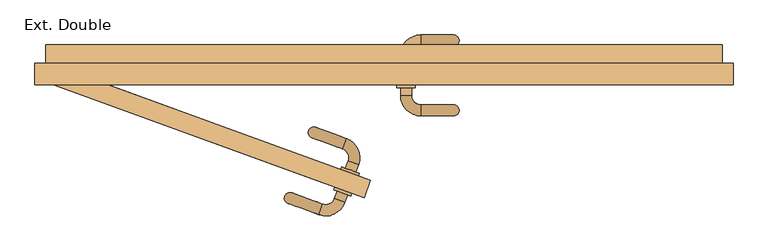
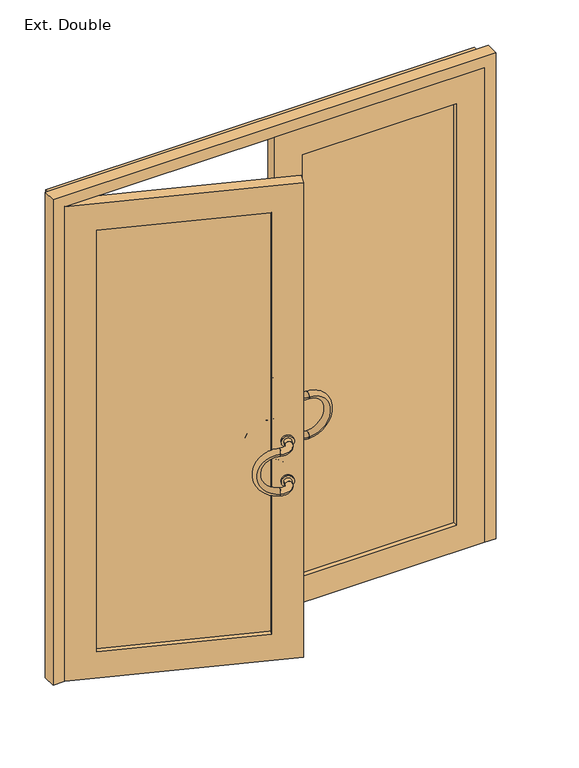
"""IFC4 building model written with IfcOpenShell, lengths in millimetres: door geometry, Ext. Double : Vitrée - 1.80 m x 2.15 m."""

from ifc_helpers import new_model, si_unit, point, frame, origin, place, context, project, spatial, polyline, circle_curve, ellipse_curve, trimmed, outline, extrude, faceted_brep, source, transform, mapped, element, save
from ifc_brep_helpers import plane_surface, cylinder_surface, revolved_surface, advanced_brep


def ext_double_d632f14f(model_context):
    return source(origin(), model_context, "Body", "SolidModel", [
        advanced_brep(
        [(35.0, -188.0, 990.0), (65.0, -188.0, 990.0), (90.0, -243.0, 990.0), (90.0, -213.0, 990.0)],
        [
            (0, 1, circle_curve(frame((50.0, -188.0, 990.0), z_axis=(0.0, 1.0, 0.0), x_axis=(1.0, 0.0, 0.0)), 15.0)),
            (1, 0, circle_curve(frame((50.0, -188.0, 990.0), z_axis=(0.0, 1.0, 0.0), x_axis=(1.0, 0.0, 0.0)), 15.0)),
            (2, 3, circle_curve(frame((90.0, -228.0, 990.0), z_axis=(1.0, 0.0, 0.0), x_axis=(0.0, 1.0, 0.0)), 15.0)),
            (3, 2, circle_curve(frame((90.0, -228.0, 990.0), z_axis=(1.0, 0.0, 0.0), x_axis=(0.0, 1.0, 0.0)), 15.0)),
            (3, 1, circle_curve(frame((90.0, -188.0, 990.0), z_axis=(0.0, 0.0, -1.0), x_axis=(-1.0, 0.0, 0.0)), 25.0)),
            (0, 2, circle_curve(frame((90.0, -188.0, 990.0), z_axis=(0.0, 0.0, 1.0), x_axis=(-1.0, 0.0, 0.0)), 55.0)),
        ],
        [
            plane_surface(frame((90.0, -188.0, 990.0), z_axis=(0.0, 1.0, 0.0), x_axis=(-1.0, 0.0, 0.0))),
            plane_surface(frame((90.0, -188.0, 990.0), z_axis=(1.0, 0.0, 0.0), x_axis=(0.0, -1.0, 0.0))),
            revolved_surface(trimmed(ellipse_curve(frame((50.0, -188.0, 990.0), z_axis=(0.0, 1.0, 0.0), x_axis=(1.0, 0.0, 0.0)), 15.0, 15.0), [point((35.0, -188.0, 990.0))], [point((65.0, -188.0, 990.0))], True, "CARTESIAN"), (90.0, -188.0, 990.0), (0.0, 0.0, 1.0)),
            revolved_surface(trimmed(ellipse_curve(frame((50.0, -188.0, 990.0), z_axis=(0.0, 1.0, 0.0), x_axis=(1.0, 0.0, 0.0)), 15.0, 15.0), [point((65.0, -188.0, 990.0))], [point((35.0, -188.0, 990.0))], True, "CARTESIAN"), (90.0, -188.0, 990.0), (0.0, 0.0, 1.0)),
        ],
        [
            (0, [[1, 2]]),
            (1, [[3, 4]]),
            (2, [[5, -1, 6, -4]]),
            (3, [[-6, -2, -5, -3]]),
        ],
    ),
        advanced_brep(
        [(35.0, -188.0, 810.0), (65.0, -188.0, 810.0), (90.0, -243.0, 810.0), (90.0, -213.0, 810.0)],
        [
            (0, 1, circle_curve(frame((50.0, -188.0, 810.0), z_axis=(0.0, 1.0, 0.0), x_axis=(1.0, 0.0, 0.0)), 15.0)),
            (1, 0, circle_curve(frame((50.0, -188.0, 810.0), z_axis=(0.0, 1.0, 0.0), x_axis=(1.0, 0.0, 0.0)), 15.0)),
            (2, 3, circle_curve(frame((90.0, -228.0, 810.0), z_axis=(1.0, 0.0, 0.0), x_axis=(0.0, 1.0, 0.0)), 15.0)),
            (3, 2, circle_curve(frame((90.0, -228.0, 810.0), z_axis=(1.0, 0.0, 0.0), x_axis=(0.0, 1.0, 0.0)), 15.0)),
            (3, 1, circle_curve(frame((90.0, -188.0, 810.0), z_axis=(0.0, 0.0, -1.0), x_axis=(-1.0, 0.0, 0.0)), 25.0)),
            (0, 2, circle_curve(frame((90.0, -188.0, 810.0), z_axis=(0.0, 0.0, 1.0), x_axis=(-1.0, 0.0, 0.0)), 55.0)),
        ],
        [
            plane_surface(frame((90.0, -188.0, 990.0), z_axis=(0.0, 1.0, 0.0), x_axis=(-1.0, 0.0, 0.0))),
            plane_surface(frame((90.0, -188.0, 990.0), z_axis=(1.0, 0.0, 0.0), x_axis=(0.0, -1.0, 0.0))),
            revolved_surface(trimmed(ellipse_curve(frame((50.0, -188.0, 810.0), z_axis=(0.0, 1.0, 0.0), x_axis=(1.0, 0.0, 0.0)), 15.0, 15.0), [point((35.0, -188.0, 810.0))], [point((65.0, -188.0, 810.0))], True, "CARTESIAN"), (90.0, -188.0, 990.0), (0.0, 0.0, 1.0)),
            revolved_surface(trimmed(ellipse_curve(frame((50.0, -188.0, 810.0), z_axis=(0.0, 1.0, 0.0), x_axis=(1.0, 0.0, 0.0)), 15.0, 15.0), [point((65.0, -188.0, 810.0))], [point((35.0, -188.0, 810.0))], True, "CARTESIAN"), (90.0, -188.0, 990.0), (0.0, 0.0, 1.0)),
        ],
        [
            (0, [[1, 2]]),
            (1, [[3, 4]]),
            (2, [[5, -1, 6, -4]]),
            (3, [[-6, -2, -5, -3]]),
        ],
    ),
        advanced_brep(
        [(90.0, -213.0, 990.0), (90.0, -243.0, 990.0), (90.0, -213.0, 810.0), (90.0, -243.0, 810.0)],
        [
            (0, 1, circle_curve(frame((90.0, -228.0, 990.0), z_axis=(-1.0, 0.0, 0.0), x_axis=(0.0, -1.0, 0.0)), 15.0)),
            (1, 0, circle_curve(frame((90.0, -228.0, 990.0), z_axis=(-1.0, 0.0, 0.0), x_axis=(0.0, -1.0, 0.0)), 15.0)),
            (2, 3, circle_curve(frame((90.0, -228.0, 810.0), z_axis=(-1.0, 0.0, 0.0), x_axis=(0.0, -1.0, 0.0)), 15.0)),
            (3, 2, circle_curve(frame((90.0, -228.0, 810.0), z_axis=(-1.0, 0.0, 0.0), x_axis=(0.0, -1.0, 0.0)), 15.0)),
            (3, 1, circle_curve(frame((90.0, -243.0, 900.0), z_axis=(0.0, -1.0, 0.0), x_axis=(0.0, 0.0, 1.0)), 90.0)),
            (0, 2, circle_curve(frame((90.0, -213.0, 900.0), z_axis=(0.0, 1.0, 0.0), x_axis=(0.0, 0.0, 1.0)), 90.0)),
        ],
        [
            plane_surface(frame((90.0, -243.0, 900.0), z_axis=(-1.0, 0.0, 0.0), x_axis=(0.0, 0.0, 1.0))),
            plane_surface(frame((90.0, -243.0, 900.0), z_axis=(-1.0, 0.0, 0.0), x_axis=(0.0, 0.0, -1.0))),
            revolved_surface(trimmed(ellipse_curve(frame((90.0, -228.0, 990.0), z_axis=(-1.0, 0.0, 0.0), x_axis=(0.0, -1.0, 0.0)), 15.0, 15.0), [point((90.0, -213.0, 990.0))], [point((90.0, -243.0, 990.0))], True, "CARTESIAN"), (90.0, -243.0, 900.0), (0.0, 1.0, 0.0)),
            revolved_surface(trimmed(ellipse_curve(frame((90.0, -228.0, 990.0), z_axis=(-1.0, 0.0, 0.0), x_axis=(0.0, -1.0, 0.0)), 15.0, 15.0), [point((90.0, -243.0, 990.0))], [point((90.0, -213.0, 990.0))], True, "CARTESIAN"), (90.0, -243.0, 900.0), (0.0, 1.0, 0.0)),
        ],
        [
            (0, [[1, 2]]),
            (1, [[3, 4]]),
            (2, [[5, -1, 6, -4]]),
            (3, [[-6, -2, -5, -3]]),
        ],
    ),
        advanced_brep(
        [(65.0, -78.0, 990.0), (35.0, -78.0, 990.0), (90.0, -53.0, 990.0), (90.0, -23.0, 990.0)],
        [
            (0, 1, circle_curve(frame((50.0, -78.0, 990.0), z_axis=(0.0, -1.0, 0.0), x_axis=(-1.0, 0.0, 0.0)), 15.0)),
            (1, 0, circle_curve(frame((50.0, -78.0, 990.0), z_axis=(0.0, -1.0, 0.0), x_axis=(-1.0, 0.0, 0.0)), 15.0)),
            (2, 3, circle_curve(frame((90.0, -38.0, 990.0), z_axis=(1.0, 0.0, 0.0), x_axis=(0.0, 1.0, 0.0)), 15.0)),
            (3, 2, circle_curve(frame((90.0, -38.0, 990.0), z_axis=(1.0, 0.0, 0.0), x_axis=(0.0, 1.0, 0.0)), 15.0)),
            (3, 1, circle_curve(frame((90.0, -78.0, 990.0), z_axis=(0.0, 0.0, 1.0), x_axis=(-1.0, 0.0, 0.0)), 55.0)),
            (0, 2, circle_curve(frame((90.0, -78.0, 990.0), z_axis=(0.0, 0.0, -1.0), x_axis=(-1.0, 0.0, 0.0)), 25.0)),
        ],
        [
            plane_surface(frame((90.0, -78.0, 990.0), z_axis=(0.0, -1.0, 0.0), x_axis=(-1.0, 0.0, 0.0))),
            plane_surface(frame((90.0, -78.0, 990.0), z_axis=(1.0, 0.0, 0.0), x_axis=(0.0, 1.0, 0.0))),
            revolved_surface(trimmed(ellipse_curve(frame((50.0, -78.0, 990.0), z_axis=(0.0, -1.0, 0.0), x_axis=(-1.0, 0.0, 0.0)), 15.0, 15.0), [point((65.0, -78.0, 990.0))], [point((35.0, -78.0, 990.0))], True, "CARTESIAN"), (90.0, -78.0, 990.0), (0.0, 0.0, -1.0)),
            revolved_surface(trimmed(ellipse_curve(frame((50.0, -78.0, 990.0), z_axis=(0.0, -1.0, 0.0), x_axis=(-1.0, 0.0, 0.0)), 15.0, 15.0), [point((35.0, -78.0, 990.0))], [point((65.0, -78.0, 990.0))], True, "CARTESIAN"), (90.0, -78.0, 990.0), (0.0, 0.0, -1.0)),
        ],
        [
            (0, [[1, 2]]),
            (1, [[3, 4]]),
            (2, [[5, -1, 6, -4]]),
            (3, [[-6, -2, -5, -3]]),
        ],
    ),
        advanced_brep(
        [(65.0, -78.0, 810.0), (35.0, -78.0, 810.0), (90.0, -53.0, 810.0), (90.0, -23.0, 810.0)],
        [
            (0, 1, circle_curve(frame((50.0, -78.0, 810.0), z_axis=(0.0, -1.0, 0.0), x_axis=(-1.0, 0.0, 0.0)), 15.0)),
            (1, 0, circle_curve(frame((50.0, -78.0, 810.0), z_axis=(0.0, -1.0, 0.0), x_axis=(-1.0, 0.0, 0.0)), 15.0)),
            (2, 3, circle_curve(frame((90.0, -38.0, 810.0), z_axis=(1.0, 0.0, 0.0), x_axis=(0.0, 1.0, 0.0)), 15.0)),
            (3, 2, circle_curve(frame((90.0, -38.0, 810.0), z_axis=(1.0, 0.0, 0.0), x_axis=(0.0, 1.0, 0.0)), 15.0)),
            (3, 1, circle_curve(frame((90.0, -78.0, 810.0), z_axis=(0.0, 0.0, 1.0), x_axis=(-1.0, 0.0, 0.0)), 55.0)),
            (0, 2, circle_curve(frame((90.0, -78.0, 810.0), z_axis=(0.0, 0.0, -1.0), x_axis=(-1.0, 0.0, 0.0)), 25.0)),
        ],
        [
            plane_surface(frame((90.0, -78.0, 990.0), z_axis=(0.0, -1.0, 0.0), x_axis=(-1.0, 0.0, 0.0))),
            plane_surface(frame((90.0, -78.0, 990.0), z_axis=(1.0, 0.0, 0.0), x_axis=(0.0, 1.0, 0.0))),
            revolved_surface(trimmed(ellipse_curve(frame((50.0, -78.0, 810.0), z_axis=(0.0, -1.0, 0.0), x_axis=(-1.0, 0.0, 0.0)), 15.0, 15.0), [point((65.0, -78.0, 810.0))], [point((35.0, -78.0, 810.0))], True, "CARTESIAN"), (90.0, -78.0, 990.0), (0.0, 0.0, -1.0)),
            revolved_surface(trimmed(ellipse_curve(frame((50.0, -78.0, 810.0), z_axis=(0.0, -1.0, 0.0), x_axis=(-1.0, 0.0, 0.0)), 15.0, 15.0), [point((35.0, -78.0, 810.0))], [point((65.0, -78.0, 810.0))], True, "CARTESIAN"), (90.0, -78.0, 990.0), (0.0, 0.0, -1.0)),
        ],
        [
            (0, [[1, 2]]),
            (1, [[3, 4]]),
            (2, [[5, -1, 6, -4]]),
            (3, [[-6, -2, -5, -3]]),
        ],
    ),
        advanced_brep(
        [(90.0, -23.0, 990.0), (90.0, -53.0, 990.0), (90.0, -23.0, 810.0), (90.0, -53.0, 810.0)],
        [
            (0, 1, circle_curve(frame((90.0, -38.0, 990.0), z_axis=(-1.0, 0.0, 0.0), x_axis=(0.0, -1.0, 0.0)), 15.0)),
            (1, 0, circle_curve(frame((90.0, -38.0, 990.0), z_axis=(-1.0, 0.0, 0.0), x_axis=(0.0, -1.0, 0.0)), 15.0)),
            (2, 3, circle_curve(frame((90.0, -38.0, 810.0), z_axis=(-1.0, 0.0, 0.0), x_axis=(0.0, -1.0, 0.0)), 15.0)),
            (3, 2, circle_curve(frame((90.0, -38.0, 810.0), z_axis=(-1.0, 0.0, 0.0), x_axis=(0.0, -1.0, 0.0)), 15.0)),
            (3, 1, circle_curve(frame((90.0, -53.0, 900.0), z_axis=(0.0, -1.0, 0.0), x_axis=(0.0, 0.0, 1.0)), 90.0)),
            (0, 2, circle_curve(frame((90.0, -23.0, 900.0), z_axis=(0.0, 1.0, 0.0), x_axis=(0.0, 0.0, 1.0)), 90.0)),
        ],
        [
            plane_surface(frame((90.0, -38.0, 900.0), z_axis=(-1.0, 0.0, 0.0), x_axis=(0.0, 0.0, 1.0))),
            plane_surface(frame((90.0, -38.0, 900.0), z_axis=(-1.0, 0.0, 0.0), x_axis=(0.0, 0.0, -1.0))),
            revolved_surface(trimmed(ellipse_curve(frame((90.0, -38.0, 990.0), z_axis=(-1.0, 0.0, 0.0), x_axis=(0.0, -1.0, 0.0)), 15.0, 15.0), [point((90.0, -23.0, 990.0))], [point((90.0, -53.0, 990.0))], True, "CARTESIAN"), (90.0, -38.0, 900.0), (0.0, 1.0, 0.0)),
            revolved_surface(trimmed(ellipse_curve(frame((90.0, -38.0, 990.0), z_axis=(-1.0, 0.0, 0.0), x_axis=(0.0, -1.0, 0.0)), 15.0, 15.0), [point((90.0, -53.0, 990.0))], [point((90.0, -23.0, 990.0))], True, "CARTESIAN"), (90.0, -38.0, 900.0), (0.0, 1.0, 0.0)),
        ],
        [
            (0, [[1, 2]]),
            (1, [[3, 4]]),
            (2, [[5, -1, 6, -4]]),
            (3, [[-6, -2, -5, -3]]),
        ],
    ),
        advanced_brep(
        [(25.0, -166.0, 990.0), (75.0, -166.0, 990.0), (65.0, -166.0, 990.0), (35.0, -166.0, 990.0), (25.0, -158.0, 990.0), (75.0, -158.0, 990.0), (35.0, -188.0, 990.0), (65.0, -188.0, 990.0)],
        [
            (0, 1, circle_curve(frame((50.0, -166.0, 990.0), z_axis=(0.0, -1.0, 0.0), x_axis=(1.0, 0.0, 0.0)), 25.0)),
            (1, 0, circle_curve(frame((50.0, -166.0, 990.0), z_axis=(0.0, -1.0, 0.0), x_axis=(1.0, 0.0, 0.0)), 25.0)),
            (2, 3, circle_curve(frame((50.0, -166.0, 990.0), z_axis=(0.0, 1.0, 0.0), x_axis=(1.0, 0.0, 0.0)), 15.0)),
            (3, 2, circle_curve(frame((50.0, -166.0, 990.0), z_axis=(0.0, 1.0, 0.0), x_axis=(1.0, 0.0, 0.0)), 15.0)),
            (4, 5, circle_curve(frame((50.0, -158.0, 990.0), z_axis=(0.0, 1.0, 0.0), x_axis=(1.0, 0.0, 0.0)), 25.0)),
            (5, 4, circle_curve(frame((50.0, -158.0, 990.0), z_axis=(0.0, 1.0, 0.0), x_axis=(1.0, 0.0, 0.0)), 25.0)),
            (0, 4),
            (5, 1),
            (6, 7, circle_curve(frame((50.0, -188.0, 990.0), z_axis=(0.0, -1.0, 0.0), x_axis=(1.0, 0.0, 0.0)), 15.0)),
            (7, 6, circle_curve(frame((50.0, -188.0, 990.0), z_axis=(0.0, -1.0, 0.0), x_axis=(1.0, 0.0, 0.0)), 15.0)),
            (6, 3),
            (2, 7),
        ],
        [
            plane_surface(frame((75.0, -166.0, 990.0), z_axis=(0.0, -1.0, 0.0), x_axis=(0.0, 0.0, 1.0))),
            plane_surface(frame((75.0, -158.0, 990.0), z_axis=(0.0, 1.0, 0.0), x_axis=(0.0, 0.0, -1.0))),
            cylinder_surface(frame((50.0, -158.0, 990.0), z_axis=(0.0, -1.0, 0.0), x_axis=(1.0, 0.0, 0.0)), 25.0),
            plane_surface(frame((65.0, -188.0, 990.0), z_axis=(0.0, -1.0, 0.0), x_axis=(0.0, 0.0, 1.0))),
            cylinder_surface(frame((50.0, -158.0, 990.0), z_axis=(0.0, -1.0, 0.0), x_axis=(1.0, 0.0, 0.0)), 15.0),
        ],
        [
            (0, [[1, 2], [3, 4]]),
            (1, [[5, 6]]),
            (2, [[-1, 7, -6, 8]]),
            (2, [[-2, -8, -5, -7]]),
            (3, [[9, 10]]),
            (4, [[-9, 11, -3, 12]]),
            (4, [[-10, -12, -4, -11]]),
        ],
    ),
        advanced_brep(
        [(25.0, -166.0, 810.0), (75.0, -166.0, 810.0), (65.0, -166.0, 810.0), (35.0, -166.0, 810.0), (25.0, -158.0, 810.0), (75.0, -158.0, 810.0), (35.0, -188.0, 810.0), (65.0, -188.0, 810.0)],
        [
            (0, 1, circle_curve(frame((50.0, -166.0, 810.0), z_axis=(0.0, -1.0, 0.0), x_axis=(1.0, 0.0, 0.0)), 25.0)),
            (1, 0, circle_curve(frame((50.0, -166.0, 810.0), z_axis=(0.0, -1.0, 0.0), x_axis=(1.0, 0.0, 0.0)), 25.0)),
            (2, 3, circle_curve(frame((50.0, -166.0, 810.0), z_axis=(0.0, 1.0, 0.0), x_axis=(1.0, 0.0, 0.0)), 15.0)),
            (3, 2, circle_curve(frame((50.0, -166.0, 810.0), z_axis=(0.0, 1.0, 0.0), x_axis=(1.0, 0.0, 0.0)), 15.0)),
            (4, 5, circle_curve(frame((50.0, -158.0, 810.0), z_axis=(0.0, 1.0, 0.0), x_axis=(1.0, 0.0, 0.0)), 25.0)),
            (5, 4, circle_curve(frame((50.0, -158.0, 810.0), z_axis=(0.0, 1.0, 0.0), x_axis=(1.0, 0.0, 0.0)), 25.0)),
            (0, 4),
            (5, 1),
            (6, 7, circle_curve(frame((50.0, -188.0, 810.0), z_axis=(0.0, -1.0, 0.0), x_axis=(1.0, 0.0, 0.0)), 15.0)),
            (7, 6, circle_curve(frame((50.0, -188.0, 810.0), z_axis=(0.0, -1.0, 0.0), x_axis=(1.0, 0.0, 0.0)), 15.0)),
            (6, 3),
            (2, 7),
        ],
        [
            plane_surface(frame((75.0, -166.0, 990.0), z_axis=(0.0, -1.0, 0.0), x_axis=(0.0, 0.0, 1.0))),
            plane_surface(frame((75.0, -158.0, 990.0), z_axis=(0.0, 1.0, 0.0), x_axis=(0.0, 0.0, -1.0))),
            cylinder_surface(frame((50.0, -158.0, 810.0), z_axis=(0.0, -1.0, 0.0), x_axis=(1.0, 0.0, 0.0)), 25.0),
            plane_surface(frame((65.0, -188.0, 990.0), z_axis=(0.0, -1.0, 0.0), x_axis=(0.0, 0.0, 1.0))),
            cylinder_surface(frame((50.0, -158.0, 810.0), z_axis=(0.0, -1.0, 0.0), x_axis=(1.0, 0.0, 0.0)), 15.0),
        ],
        [
            (0, [[1, 2], [3, 4]]),
            (1, [[5, 6]]),
            (2, [[-1, 7, -6, 8]]),
            (2, [[-2, -8, -5, -7]]),
            (3, [[9, 10]]),
            (4, [[-9, 11, -3, 12]]),
            (4, [[-10, -12, -4, -11]]),
        ],
    ),
        advanced_brep(
        [(25.0, -108.0, 810.0), (75.0, -108.0, 810.0), (25.0, -100.0, 810.0), (75.0, -100.0, 810.0), (35.0, -100.0, 810.0), (65.0, -100.0, 810.0), (35.0, -78.0, 810.0), (65.0, -78.0, 810.0)],
        [
            (0, 1, circle_curve(frame((50.0, -108.0, 810.0), z_axis=(0.0, -1.0, 0.0), x_axis=(1.0, 0.0, 0.0)), 25.0)),
            (1, 0, circle_curve(frame((50.0, -108.0, 810.0), z_axis=(0.0, -1.0, 0.0), x_axis=(1.0, 0.0, 0.0)), 25.0)),
            (2, 3, circle_curve(frame((50.0, -100.0, 810.0), z_axis=(0.0, 1.0, 0.0), x_axis=(1.0, 0.0, 0.0)), 25.0)),
            (3, 2, circle_curve(frame((50.0, -100.0, 810.0), z_axis=(0.0, 1.0, 0.0), x_axis=(1.0, 0.0, 0.0)), 25.0)),
            (4, 5, circle_curve(frame((50.0, -100.0, 810.0), z_axis=(0.0, -1.0, 0.0), x_axis=(1.0, 0.0, 0.0)), 15.0)),
            (5, 4, circle_curve(frame((50.0, -100.0, 810.0), z_axis=(0.0, -1.0, 0.0), x_axis=(1.0, 0.0, 0.0)), 15.0)),
            (0, 2),
            (3, 1),
            (6, 7, circle_curve(frame((50.0, -78.0, 810.0), z_axis=(0.0, 1.0, 0.0), x_axis=(1.0, 0.0, 0.0)), 15.0)),
            (7, 6, circle_curve(frame((50.0, -78.0, 810.0), z_axis=(0.0, 1.0, 0.0), x_axis=(1.0, 0.0, 0.0)), 15.0)),
            (7, 5),
            (4, 6),
        ],
        [
            plane_surface(frame((75.0, -108.0, 990.0), z_axis=(0.0, -1.0, 0.0), x_axis=(0.0, 0.0, 1.0))),
            plane_surface(frame((75.0, -100.0, 990.0), z_axis=(0.0, 1.0, 0.0), x_axis=(0.0, 0.0, -1.0))),
            cylinder_surface(frame((50.0, -108.0, 810.0), z_axis=(0.0, -1.0, 0.0), x_axis=(1.0, 0.0, 0.0)), 25.0),
            plane_surface(frame((65.0, -78.0, 990.0), z_axis=(0.0, 1.0, 0.0), x_axis=(0.0, 0.0, -1.0))),
            cylinder_surface(frame((50.0, -108.0, 810.0), z_axis=(0.0, -1.0, 0.0), x_axis=(1.0, 0.0, 0.0)), 15.0),
        ],
        [
            (0, [[1, 2]]),
            (1, [[3, 4], [5, 6]]),
            (2, [[-1, 7, -4, 8]]),
            (2, [[-2, -8, -3, -7]]),
            (3, [[9, 10]]),
            (4, [[-10, 11, -5, 12]]),
            (4, [[-9, -12, -6, -11]]),
        ],
    ),
        advanced_brep(
        [(25.0, -108.0, 990.0), (75.0, -108.0, 990.0), (25.0, -100.0, 990.0), (75.0, -100.0, 990.0), (35.0, -100.0, 990.0), (65.0, -100.0, 990.0), (35.0, -78.0, 990.0), (65.0, -78.0, 990.0)],
        [
            (0, 1, circle_curve(frame((50.0, -108.0, 990.0), z_axis=(0.0, -1.0, 0.0), x_axis=(1.0, 0.0, 0.0)), 25.0)),
            (1, 0, circle_curve(frame((50.0, -108.0, 990.0), z_axis=(0.0, -1.0, 0.0), x_axis=(1.0, 0.0, 0.0)), 25.0)),
            (2, 3, circle_curve(frame((50.0, -100.0, 990.0), z_axis=(0.0, 1.0, 0.0), x_axis=(1.0, 0.0, 0.0)), 25.0)),
            (3, 2, circle_curve(frame((50.0, -100.0, 990.0), z_axis=(0.0, 1.0, 0.0), x_axis=(1.0, 0.0, 0.0)), 25.0)),
            (4, 5, circle_curve(frame((50.0, -100.0, 990.0), z_axis=(0.0, -1.0, 0.0), x_axis=(1.0, 0.0, 0.0)), 15.0)),
            (5, 4, circle_curve(frame((50.0, -100.0, 990.0), z_axis=(0.0, -1.0, 0.0), x_axis=(1.0, 0.0, 0.0)), 15.0)),
            (0, 2),
            (3, 1),
            (6, 7, circle_curve(frame((50.0, -78.0, 990.0), z_axis=(0.0, 1.0, 0.0), x_axis=(1.0, 0.0, 0.0)), 15.0)),
            (7, 6, circle_curve(frame((50.0, -78.0, 990.0), z_axis=(0.0, 1.0, 0.0), x_axis=(1.0, 0.0, 0.0)), 15.0)),
            (7, 5),
            (4, 6),
        ],
        [
            plane_surface(frame((75.0, -108.0, 990.0), z_axis=(0.0, -1.0, 0.0), x_axis=(0.0, 0.0, 1.0))),
            plane_surface(frame((75.0, -100.0, 990.0), z_axis=(0.0, 1.0, 0.0), x_axis=(0.0, 0.0, -1.0))),
            cylinder_surface(frame((50.0, -100.0, 990.0), z_axis=(0.0, -1.0, 0.0), x_axis=(1.0, 0.0, 0.0)), 25.0),
            plane_surface(frame((65.0, -78.0, 990.0), z_axis=(0.0, 1.0, 0.0), x_axis=(0.0, 0.0, -1.0))),
            cylinder_surface(frame((50.0, -78.0, 990.0), z_axis=(0.0, -1.0, 0.0), x_axis=(1.0, 0.0, 0.0)), 15.0),
        ],
        [
            (0, [[1, 2]]),
            (1, [[3, 4], [5, 6]]),
            (2, [[-1, 7, -4, 8]]),
            (2, [[-2, -8, -3, -7]]),
            (3, [[9, 10]]),
            (4, [[-10, 11, -5, 12]]),
            (4, [[-9, -12, -6, -11]]),
        ],
    ),
        extrude(outline(polyline([(110.0, -128.0), (770.0, -128.0), (770.0, -138.0), (110.0, -138.0), (110.0, -128.0)])), frame((0.0, 0.0, 120.0), z_axis=(0.0, 0.0, 1.0), x_axis=(1.0, 0.0, 0.0)), (0.0, 0.0, 1.0), 1910.0),
        extrude(outline(polyline([(2150.0, -10.0), (0.0, -10.0), (0.0, 890.0), (2150.0, 890.0), (2150.0, -10.0)]), holes=[polyline([(2030.0, 770.0), (120.0, 770.0), (120.0, 110.0), (2030.0, 110.0), (2030.0, 770.0)])]), frame((0.0, -158.0, 0.0), z_axis=(0.0, 1.0, 0.0), x_axis=(0.0, 0.0, 1.0)), (0.0, 0.0, 1.0), 50.0),
        advanced_brep(
        [(-116.8234135, -478.6180012, 990.0), (-145.0141922, -468.3573969, 990.0), (-187.3176156, -511.4899874, 990.0), (-177.0570113, -483.2992088, 990.0)],
        [
            (0, 1, circle_curve(frame((-130.9188028, -473.487699, 990.0), z_axis=(0.34202014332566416, 0.9396926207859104, 0.0), x_axis=(-0.9396926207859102, 0.3420201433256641, 0.0)), 15.0)),
            (1, 0, circle_curve(frame((-130.9188028, -473.487699, 990.0), z_axis=(0.34202014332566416, 0.9396926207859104, 0.0), x_axis=(-0.9396926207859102, 0.3420201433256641, 0.0)), 15.0)),
            (2, 3, circle_curve(frame((-182.1873134, -497.3945981, 990.0), z_axis=(-0.9396926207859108, 0.3420201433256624, 0.0), x_axis=(0.34202014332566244, 0.939692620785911, 0.0)), 15.0)),
            (3, 2, circle_curve(frame((-182.1873134, -497.3945981, 990.0), z_axis=(-0.9396926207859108, 0.3420201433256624, 0.0), x_axis=(0.34202014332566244, 0.939692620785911, 0.0)), 15.0)),
            (2, 0, circle_curve(frame((-168.5065077, -459.8068933, 990.0), z_axis=(0.0, 0.0, 1.0), x_axis=(0.939692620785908, -0.34202014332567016, 0.0)), 55.0)),
            (1, 3, circle_curve(frame((-168.5065077, -459.8068933, 990.0), z_axis=(0.0, 0.0, -1.0), x_axis=(0.939692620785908, -0.34202014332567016, 0.0)), 25.0)),
        ],
        [
            plane_surface(frame((-168.5065077, -459.8068933, 990.0), z_axis=(0.34202014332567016, 0.939692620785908, 0.0), x_axis=(0.939692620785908, -0.34202014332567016, 0.0))),
            plane_surface(frame((-168.5065077, -459.8068933, 990.0), z_axis=(-0.9396926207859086, 0.3420201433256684, 0.0), x_axis=(-0.3420201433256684, -0.9396926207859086, 0.0))),
            revolved_surface(trimmed(ellipse_curve(frame((-130.9188028, -473.487699, 990.0), z_axis=(-0.34202014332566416, -0.9396926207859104, 0.0), x_axis=(-0.9396926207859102, 0.3420201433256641, 0.0)), 15.0, 15.0), [point((-116.8234135, -478.6180012, 990.0))], [point((-145.0141922, -468.3573969, 990.0))], True, "CARTESIAN"), (-168.5065077, -459.8068933, 990.0), (0.0, 0.0, 1.0000000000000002)),
            revolved_surface(trimmed(ellipse_curve(frame((-130.9188028, -473.487699, 990.0), z_axis=(-0.34202014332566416, -0.9396926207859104, 0.0), x_axis=(-0.9396926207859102, 0.3420201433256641, 0.0)), 15.0, 15.0), [point((-145.0141922, -468.3573969, 990.0))], [point((-116.8234135, -478.6180012, 990.0))], True, "CARTESIAN"), (-168.5065077, -459.8068933, 990.0), (0.0, 0.0, 1.0000000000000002)),
        ],
        [
            (0, [[1, 2]]),
            (1, [[3, 4]]),
            (2, [[-3, 5, -2, 6]]),
            (3, [[-4, -6, -1, -5]]),
        ],
    ),
        advanced_brep(
        [(-116.8234135, -478.6180012, 810.0), (-145.0141922, -468.3573969, 810.0), (-187.3176156, -511.4899874, 810.0), (-177.0570113, -483.2992088, 810.0)],
        [
            (0, 1, circle_curve(frame((-130.9188028, -473.487699, 810.0), z_axis=(0.34202014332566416, 0.9396926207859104, 0.0), x_axis=(-0.9396926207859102, 0.3420201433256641, 0.0)), 15.0)),
            (1, 0, circle_curve(frame((-130.9188028, -473.487699, 810.0), z_axis=(0.34202014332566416, 0.9396926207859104, 0.0), x_axis=(-0.9396926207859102, 0.3420201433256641, 0.0)), 15.0)),
            (2, 3, circle_curve(frame((-182.1873134, -497.3945981, 810.0), z_axis=(-0.9396926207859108, 0.3420201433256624, 0.0), x_axis=(0.34202014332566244, 0.939692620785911, 0.0)), 15.0)),
            (3, 2, circle_curve(frame((-182.1873134, -497.3945981, 810.0), z_axis=(-0.9396926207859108, 0.3420201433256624, 0.0), x_axis=(0.34202014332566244, 0.939692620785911, 0.0)), 15.0)),
            (2, 0, circle_curve(frame((-168.5065077, -459.8068933, 810.0), z_axis=(0.0, 0.0, 1.0), x_axis=(0.939692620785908, -0.34202014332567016, 0.0)), 55.0)),
            (1, 3, circle_curve(frame((-168.5065077, -459.8068933, 810.0), z_axis=(0.0, 0.0, -1.0), x_axis=(0.939692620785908, -0.34202014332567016, 0.0)), 25.0)),
        ],
        [
            plane_surface(frame((-168.5065077, -459.8068933, 990.0), z_axis=(0.34202014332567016, 0.939692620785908, 0.0), x_axis=(0.939692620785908, -0.34202014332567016, 0.0))),
            plane_surface(frame((-168.5065077, -459.8068933, 990.0), z_axis=(-0.9396926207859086, 0.3420201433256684, 0.0), x_axis=(-0.3420201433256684, -0.9396926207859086, 0.0))),
            revolved_surface(trimmed(ellipse_curve(frame((-130.9188028, -473.487699, 810.0), z_axis=(-0.34202014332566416, -0.9396926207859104, 0.0), x_axis=(-0.9396926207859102, 0.3420201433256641, 0.0)), 15.0, 15.0), [point((-116.8234135, -478.6180012, 810.0))], [point((-145.0141922, -468.3573969, 810.0))], True, "CARTESIAN"), (-168.5065077, -459.8068933, 990.0), (0.0, 0.0, 1.0000000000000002)),
            revolved_surface(trimmed(ellipse_curve(frame((-130.9188028, -473.487699, 810.0), z_axis=(-0.34202014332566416, -0.9396926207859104, 0.0), x_axis=(-0.9396926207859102, 0.3420201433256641, 0.0)), 15.0, 15.0), [point((-145.0141922, -468.3573969, 810.0))], [point((-116.8234135, -478.6180012, 810.0))], True, "CARTESIAN"), (-168.5065077, -459.8068933, 990.0), (0.0, 0.0, 1.0000000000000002)),
        ],
        [
            (0, [[1, 2]]),
            (1, [[3, 4]]),
            (2, [[-3, 5, -2, 6]]),
            (3, [[-4, -6, -1, -5]]),
        ],
    ),
        advanced_brep(
        [(-177.0570113, -483.2992088, 990.0), (-187.3176156, -511.4899874, 990.0), (-177.0570113, -483.2992088, 810.0), (-187.3176156, -511.4899874, 810.0)],
        [
            (0, 1, circle_curve(frame((-182.1873134, -497.3945981, 990.0), z_axis=(0.9396926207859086, -0.34202014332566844, 0.0), x_axis=(-0.3420201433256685, -0.9396926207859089, 0.0)), 15.0)),
            (1, 0, circle_curve(frame((-182.1873134, -497.3945981, 990.0), z_axis=(0.9396926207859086, -0.34202014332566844, 0.0), x_axis=(-0.3420201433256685, -0.9396926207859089, 0.0)), 15.0)),
            (2, 3, circle_curve(frame((-182.1873134, -497.3945981, 810.0), z_axis=(0.9396926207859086, -0.34202014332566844, 0.0), x_axis=(-0.3420201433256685, -0.9396926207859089, 0.0)), 15.0)),
            (3, 2, circle_curve(frame((-182.1873134, -497.3945981, 810.0), z_axis=(0.9396926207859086, -0.34202014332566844, 0.0), x_axis=(-0.3420201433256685, -0.9396926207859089, 0.0)), 15.0)),
            (2, 0, circle_curve(frame((-177.0570113, -483.2992088, 900.0), z_axis=(0.34202014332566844, 0.9396926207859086, 0.0), x_axis=(0.0, 0.0, 1.0000000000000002)), 90.0)),
            (1, 3, circle_curve(frame((-187.3176156, -511.4899874, 900.0), z_axis=(-0.34202014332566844, -0.9396926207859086, 0.0), x_axis=(0.0, 0.0, 1.0000000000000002)), 90.0)),
        ],
        [
            plane_surface(frame((-187.3176156, -511.4899874, 900.0), z_axis=(0.9396926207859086, -0.34202014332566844, 0.0), x_axis=(0.0, 0.0, 1.0))),
            plane_surface(frame((-187.3176156, -511.4899874, 900.0), z_axis=(0.9396926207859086, -0.34202014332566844, 0.0), x_axis=(0.0, 0.0, -1.0))),
            revolved_surface(trimmed(ellipse_curve(frame((-182.1873134, -497.3945981, 990.0), z_axis=(-0.9396926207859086, 0.34202014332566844, 0.0), x_axis=(-0.3420201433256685, -0.9396926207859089, 0.0)), 15.0, 15.0), [point((-177.0570113, -483.2992088, 990.0))], [point((-187.3176156, -511.4899874, 990.0))], True, "CARTESIAN"), (-187.3176156, -511.4899874, 900.0), (0.3420201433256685, 0.9396926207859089, 0.0)),
            revolved_surface(trimmed(ellipse_curve(frame((-182.1873134, -497.3945981, 990.0), z_axis=(-0.9396926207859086, 0.34202014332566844, 0.0), x_axis=(-0.3420201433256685, -0.9396926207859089, 0.0)), 15.0, 15.0), [point((-187.3176156, -511.4899874, 990.0))], [point((-177.0570113, -483.2992088, 990.0))], True, "CARTESIAN"), (-187.3176156, -511.4899874, 900.0), (0.3420201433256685, 0.9396926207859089, 0.0)),
        ],
        [
            (0, [[1, 2]]),
            (1, [[3, 4]]),
            (2, [[-3, 5, -2, 6]]),
            (3, [[-4, -6, -1, -5]]),
        ],
    ),
        advanced_brep(
        [(-107.3919764, -364.9912086, 990.0), (-79.2011978, -375.2518129, 990.0), (-122.3337883, -332.9483895, 990.0), (-112.073184, -304.7576109, 990.0)],
        [
            (0, 1, circle_curve(frame((-93.2965871, -370.1215107, 990.0), z_axis=(-0.34202014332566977, -0.9396926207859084, 0.0), x_axis=(0.9396926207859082, -0.3420201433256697, 0.0)), 15.0)),
            (1, 0, circle_curve(frame((-93.2965871, -370.1215107, 990.0), z_axis=(-0.34202014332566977, -0.9396926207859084, 0.0), x_axis=(0.9396926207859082, -0.3420201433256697, 0.0)), 15.0)),
            (2, 3, circle_curve(frame((-117.2034862, -318.8530002, 990.0), z_axis=(-0.9396926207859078, 0.34202014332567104, 0.0), x_axis=(0.3420201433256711, 0.939692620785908, 0.0)), 15.0)),
            (3, 2, circle_curve(frame((-117.2034862, -318.8530002, 990.0), z_axis=(-0.9396926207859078, 0.34202014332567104, 0.0), x_axis=(0.3420201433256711, 0.939692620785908, 0.0)), 15.0)),
            (2, 0, circle_curve(frame((-130.8842919, -356.440705, 990.0), z_axis=(0.0, 0.0, -1.0), x_axis=(0.9396926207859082, -0.34202014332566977, 0.0)), 25.0)),
            (1, 3, circle_curve(frame((-130.8842919, -356.440705, 990.0), z_axis=(0.0, 0.0, 1.0), x_axis=(0.9396926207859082, -0.34202014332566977, 0.0)), 55.0)),
        ],
        [
            plane_surface(frame((-130.8842919, -356.440705, 990.0), z_axis=(-0.34202014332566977, -0.9396926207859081, 0.0), x_axis=(0.9396926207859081, -0.34202014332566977, 0.0))),
            plane_surface(frame((-130.8842919, -356.440705, 990.0), z_axis=(-0.9396926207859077, 0.34202014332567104, 0.0), x_axis=(0.34202014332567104, 0.9396926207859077, 0.0))),
            revolved_surface(trimmed(ellipse_curve(frame((-93.2965871, -370.1215107, 990.0), z_axis=(0.34202014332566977, 0.9396926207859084, 0.0), x_axis=(0.9396926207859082, -0.3420201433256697, 0.0)), 15.0, 15.0), [point((-107.3919764, -364.9912086, 990.0))], [point((-79.2011978, -375.2518129, 990.0))], True, "CARTESIAN"), (-130.8842919, -356.440705, 990.0), (0.0, 0.0, -1.0000000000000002)),
            revolved_surface(trimmed(ellipse_curve(frame((-93.2965871, -370.1215107, 990.0), z_axis=(0.34202014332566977, 0.9396926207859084, 0.0), x_axis=(0.9396926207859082, -0.3420201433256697, 0.0)), 15.0, 15.0), [point((-79.2011978, -375.2518129, 990.0))], [point((-107.3919764, -364.9912086, 990.0))], True, "CARTESIAN"), (-130.8842919, -356.440705, 990.0), (0.0, 0.0, -1.0000000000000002)),
        ],
        [
            (0, [[1, 2]]),
            (1, [[3, 4]]),
            (2, [[-3, 5, -2, 6]]),
            (3, [[-4, -6, -1, -5]]),
        ],
    ),
        advanced_brep(
        [(-107.3919764, -364.9912086, 810.0), (-79.2011978, -375.2518129, 810.0), (-122.3337883, -332.9483895, 810.0), (-112.073184, -304.7576109, 810.0)],
        [
            (0, 1, circle_curve(frame((-93.2965871, -370.1215107, 810.0), z_axis=(-0.34202014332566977, -0.9396926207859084, 0.0), x_axis=(0.9396926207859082, -0.3420201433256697, 0.0)), 15.0)),
            (1, 0, circle_curve(frame((-93.2965871, -370.1215107, 810.0), z_axis=(-0.34202014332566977, -0.9396926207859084, 0.0), x_axis=(0.9396926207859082, -0.3420201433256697, 0.0)), 15.0)),
            (2, 3, circle_curve(frame((-117.2034862, -318.8530002, 810.0), z_axis=(-0.9396926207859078, 0.34202014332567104, 0.0), x_axis=(0.3420201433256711, 0.939692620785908, 0.0)), 15.0)),
            (3, 2, circle_curve(frame((-117.2034862, -318.8530002, 810.0), z_axis=(-0.9396926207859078, 0.34202014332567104, 0.0), x_axis=(0.3420201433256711, 0.939692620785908, 0.0)), 15.0)),
            (2, 0, circle_curve(frame((-130.8842919, -356.440705, 810.0), z_axis=(0.0, 0.0, -1.0), x_axis=(0.9396926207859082, -0.34202014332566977, 0.0)), 25.0)),
            (1, 3, circle_curve(frame((-130.8842919, -356.440705, 810.0), z_axis=(0.0, 0.0, 1.0), x_axis=(0.9396926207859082, -0.34202014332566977, 0.0)), 55.0)),
        ],
        [
            plane_surface(frame((-130.8842919, -356.440705, 990.0), z_axis=(-0.34202014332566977, -0.9396926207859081, 0.0), x_axis=(0.9396926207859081, -0.34202014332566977, 0.0))),
            plane_surface(frame((-130.8842919, -356.440705, 990.0), z_axis=(-0.9396926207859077, 0.34202014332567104, 0.0), x_axis=(0.34202014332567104, 0.9396926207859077, 0.0))),
            revolved_surface(trimmed(ellipse_curve(frame((-93.2965871, -370.1215107, 810.0), z_axis=(0.34202014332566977, 0.9396926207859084, 0.0), x_axis=(0.9396926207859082, -0.3420201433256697, 0.0)), 15.0, 15.0), [point((-107.3919764, -364.9912086, 810.0))], [point((-79.2011978, -375.2518129, 810.0))], True, "CARTESIAN"), (-130.8842919, -356.440705, 990.0), (0.0, 0.0, -1.0000000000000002)),
            revolved_surface(trimmed(ellipse_curve(frame((-93.2965871, -370.1215107, 810.0), z_axis=(0.34202014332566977, 0.9396926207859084, 0.0), x_axis=(0.9396926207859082, -0.3420201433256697, 0.0)), 15.0, 15.0), [point((-79.2011978, -375.2518129, 810.0))], [point((-107.3919764, -364.9912086, 810.0))], True, "CARTESIAN"), (-130.8842919, -356.440705, 990.0), (0.0, 0.0, -1.0000000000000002)),
        ],
        [
            (0, [[1, 2]]),
            (1, [[3, 4]]),
            (2, [[-3, 5, -2, 6]]),
            (3, [[-4, -6, -1, -5]]),
        ],
    ),
        advanced_brep(
        [(-112.073184, -304.7576109, 990.0), (-122.3337883, -332.9483895, 990.0), (-112.073184, -304.7576109, 810.0), (-122.3337883, -332.9483895, 810.0)],
        [
            (0, 1, circle_curve(frame((-117.2034862, -318.8530002, 990.0), z_axis=(0.9396926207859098, -0.3420201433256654, 0.0), x_axis=(-0.34202014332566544, -0.93969262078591, 0.0)), 15.0)),
            (1, 0, circle_curve(frame((-117.2034862, -318.8530002, 990.0), z_axis=(0.9396926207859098, -0.3420201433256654, 0.0), x_axis=(-0.34202014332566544, -0.93969262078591, 0.0)), 15.0)),
            (2, 3, circle_curve(frame((-117.2034862, -318.8530002, 810.0), z_axis=(0.9396926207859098, -0.3420201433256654, 0.0), x_axis=(-0.34202014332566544, -0.93969262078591, 0.0)), 15.0)),
            (3, 2, circle_curve(frame((-117.2034862, -318.8530002, 810.0), z_axis=(0.9396926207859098, -0.3420201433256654, 0.0), x_axis=(-0.34202014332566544, -0.93969262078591, 0.0)), 15.0)),
            (2, 0, circle_curve(frame((-112.073184, -304.7576109, 900.0), z_axis=(0.34202014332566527, 0.9396926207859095, 0.0), x_axis=(0.0, 0.0, 1.0000000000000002)), 90.0)),
            (1, 3, circle_curve(frame((-122.3337883, -332.9483895, 900.0), z_axis=(-0.34202014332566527, -0.9396926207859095, 0.0), x_axis=(0.0, 0.0, 1.0000000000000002)), 90.0)),
        ],
        [
            plane_surface(frame((-117.2034862, -318.8530002, 900.0), z_axis=(0.9396926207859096, -0.3420201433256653, 0.0), x_axis=(0.0, 0.0, 1.0))),
            plane_surface(frame((-117.2034862, -318.8530002, 900.0), z_axis=(0.9396926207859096, -0.3420201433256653, 0.0), x_axis=(0.0, 0.0, -1.0))),
            revolved_surface(trimmed(ellipse_curve(frame((-117.2034862, -318.8530002, 990.0), z_axis=(-0.9396926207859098, 0.3420201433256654, 0.0), x_axis=(-0.34202014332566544, -0.93969262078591, 0.0)), 15.0, 15.0), [point((-112.073184, -304.7576109, 990.0))], [point((-122.3337883, -332.9483895, 990.0))], True, "CARTESIAN"), (-117.2034862, -318.8530002, 900.0), (0.34202014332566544, 0.93969262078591, 0.0)),
            revolved_surface(trimmed(ellipse_curve(frame((-117.2034862, -318.8530002, 990.0), z_axis=(-0.9396926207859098, 0.3420201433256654, 0.0), x_axis=(-0.34202014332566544, -0.93969262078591, 0.0)), 15.0, 15.0), [point((-122.3337883, -332.9483895, 990.0))], [point((-112.073184, -304.7576109, 990.0))], True, "CARTESIAN"), (-117.2034862, -318.8530002, 900.0), (0.34202014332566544, 0.93969262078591, 0.0)),
        ],
        [
            (0, [[1, 2]]),
            (1, [[3, 4]]),
            (2, [[-3, 5, -2, 6]]),
            (3, [[-4, -6, -1, -5]]),
        ],
    ),
        advanced_brep(
        [(-99.9020442, -461.3649649, 990.0), (-146.8866752, -444.2639578, 990.0), (-137.489749, -447.6841592, 990.0), (-109.2989704, -457.9447635, 990.0), (-97.165883, -453.847424, 990.0), (-144.1505141, -436.7464168, 990.0), (-116.8234135, -478.6180012, 990.0), (-145.0141922, -468.3573969, 990.0)],
        [
            (0, 1, circle_curve(frame((-123.3943597, -452.8144614, 990.0), z_axis=(-0.34202014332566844, -0.9396926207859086, 0.0), x_axis=(-0.9396926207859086, 0.34202014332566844, 0.0)), 25.0)),
            (1, 0, circle_curve(frame((-123.3943597, -452.8144614, 990.0), z_axis=(-0.34202014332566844, -0.9396926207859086, 0.0), x_axis=(-0.9396926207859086, 0.34202014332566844, 0.0)), 25.0)),
            (2, 3, circle_curve(frame((-123.3943597, -452.8144614, 990.0), z_axis=(0.34202014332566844, 0.9396926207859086, 0.0), x_axis=(-0.9396926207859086, 0.34202014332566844, 0.0)), 15.0)),
            (3, 2, circle_curve(frame((-123.3943597, -452.8144614, 990.0), z_axis=(0.34202014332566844, 0.9396926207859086, 0.0), x_axis=(-0.9396926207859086, 0.34202014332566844, 0.0)), 15.0)),
            (4, 5, circle_curve(frame((-120.6581985, -445.2969204, 990.0), z_axis=(0.34202014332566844, 0.9396926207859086, 0.0), x_axis=(-0.9396926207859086, 0.34202014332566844, 0.0)), 25.0)),
            (5, 4, circle_curve(frame((-120.6581985, -445.2969204, 990.0), z_axis=(0.34202014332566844, 0.9396926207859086, 0.0), x_axis=(-0.9396926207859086, 0.34202014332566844, 0.0)), 25.0)),
            (1, 5),
            (4, 0),
            (6, 7, circle_curve(frame((-130.9188028, -473.487699, 990.0), z_axis=(-0.34202014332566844, -0.9396926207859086, 0.0), x_axis=(-0.9396926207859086, 0.34202014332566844, 0.0)), 15.0)),
            (7, 6, circle_curve(frame((-130.9188028, -473.487699, 990.0), z_axis=(-0.34202014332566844, -0.9396926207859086, 0.0), x_axis=(-0.9396926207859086, 0.34202014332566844, 0.0)), 15.0)),
            (7, 2),
            (3, 6),
        ],
        [
            plane_surface(frame((-146.8866752, -444.2639578, 990.0), z_axis=(-0.34202014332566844, -0.9396926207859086, 0.0), x_axis=(0.0, 0.0, 1.0))),
            plane_surface(frame((-144.1505141, -436.7464168, 990.0), z_axis=(0.34202014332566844, 0.9396926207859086, 0.0), x_axis=(0.0, 0.0, -1.0))),
            cylinder_surface(frame((-120.6581985, -445.2969204, 990.0), z_axis=(-0.3420201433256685, -0.9396926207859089, 0.0), x_axis=(-0.9396926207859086, 0.34202014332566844, 0.0)), 25.0),
            plane_surface(frame((-145.0141922, -468.3573969, 990.0), z_axis=(-0.34202014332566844, -0.9396926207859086, 0.0), x_axis=(0.0, 0.0, 1.0))),
            cylinder_surface(frame((-120.6581985, -445.2969204, 990.0), z_axis=(-0.3420201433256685, -0.9396926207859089, 0.0), x_axis=(-0.9396926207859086, 0.34202014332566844, 0.0)), 15.0),
        ],
        [
            (0, [[1, 2], [3, 4]]),
            (1, [[5, 6]]),
            (2, [[7, -5, 8, -2]]),
            (2, [[-8, -6, -7, -1]]),
            (3, [[9, 10]]),
            (4, [[11, -4, 12, -10]]),
            (4, [[-12, -3, -11, -9]]),
        ],
    ),
        advanced_brep(
        [(-99.9020442, -461.3649649, 810.0), (-146.8866752, -444.2639578, 810.0), (-137.489749, -447.6841592, 810.0), (-109.2989704, -457.9447635, 810.0), (-97.165883, -453.847424, 810.0), (-144.1505141, -436.7464168, 810.0), (-116.8234135, -478.6180012, 810.0), (-145.0141922, -468.3573969, 810.0)],
        [
            (0, 1, circle_curve(frame((-123.3943597, -452.8144614, 810.0), z_axis=(-0.34202014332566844, -0.9396926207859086, 0.0), x_axis=(-0.9396926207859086, 0.34202014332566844, 0.0)), 25.0)),
            (1, 0, circle_curve(frame((-123.3943597, -452.8144614, 810.0), z_axis=(-0.34202014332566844, -0.9396926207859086, 0.0), x_axis=(-0.9396926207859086, 0.34202014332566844, 0.0)), 25.0)),
            (2, 3, circle_curve(frame((-123.3943597, -452.8144614, 810.0), z_axis=(0.34202014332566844, 0.9396926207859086, 0.0), x_axis=(-0.9396926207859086, 0.34202014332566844, 0.0)), 15.0)),
            (3, 2, circle_curve(frame((-123.3943597, -452.8144614, 810.0), z_axis=(0.34202014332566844, 0.9396926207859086, 0.0), x_axis=(-0.9396926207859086, 0.34202014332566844, 0.0)), 15.0)),
            (4, 5, circle_curve(frame((-120.6581985, -445.2969204, 810.0), z_axis=(0.34202014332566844, 0.9396926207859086, 0.0), x_axis=(-0.9396926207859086, 0.34202014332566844, 0.0)), 25.0)),
            (5, 4, circle_curve(frame((-120.6581985, -445.2969204, 810.0), z_axis=(0.34202014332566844, 0.9396926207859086, 0.0), x_axis=(-0.9396926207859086, 0.34202014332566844, 0.0)), 25.0)),
            (1, 5),
            (4, 0),
            (6, 7, circle_curve(frame((-130.9188028, -473.487699, 810.0), z_axis=(-0.34202014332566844, -0.9396926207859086, 0.0), x_axis=(-0.9396926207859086, 0.34202014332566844, 0.0)), 15.0)),
            (7, 6, circle_curve(frame((-130.9188028, -473.487699, 810.0), z_axis=(-0.34202014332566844, -0.9396926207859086, 0.0), x_axis=(-0.9396926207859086, 0.34202014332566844, 0.0)), 15.0)),
            (7, 2),
            (3, 6),
        ],
        [
            plane_surface(frame((-146.8866752, -444.2639578, 990.0), z_axis=(-0.34202014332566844, -0.9396926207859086, 0.0), x_axis=(0.0, 0.0, 1.0))),
            plane_surface(frame((-144.1505141, -436.7464168, 990.0), z_axis=(0.34202014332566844, 0.9396926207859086, 0.0), x_axis=(0.0, 0.0, -1.0))),
            cylinder_surface(frame((-120.6581985, -445.2969204, 810.0), z_axis=(-0.3420201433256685, -0.9396926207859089, 0.0), x_axis=(-0.9396926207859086, 0.34202014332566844, 0.0)), 25.0),
            plane_surface(frame((-145.0141922, -468.3573969, 990.0), z_axis=(-0.34202014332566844, -0.9396926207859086, 0.0), x_axis=(0.0, 0.0, 1.0))),
            cylinder_surface(frame((-120.6581985, -445.2969204, 810.0), z_axis=(-0.3420201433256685, -0.9396926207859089, 0.0), x_axis=(-0.9396926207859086, 0.34202014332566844, 0.0)), 15.0),
        ],
        [
            (0, [[1, 2], [3, 4]]),
            (1, [[5, 6]]),
            (2, [[7, -5, 8, -2]]),
            (2, [[-8, -6, -7, -1]]),
            (3, [[9, 10]]),
            (4, [[11, -4, 12, -10]]),
            (4, [[-12, -3, -11, -9]]),
        ],
    ),
        advanced_brep(
        [(-80.0648759, -406.8627929, 810.0), (-127.0495069, -389.7617858, 810.0), (-77.3287147, -399.345252, 810.0), (-124.3133457, -382.2442448, 810.0), (-86.7256409, -395.9250505, 810.0), (-114.9164195, -385.6644462, 810.0), (-79.2011978, -375.2518129, 810.0), (-107.3919764, -364.9912086, 810.0)],
        [
            (0, 1, circle_curve(frame((-103.5571914, -398.3122894, 810.0), z_axis=(-0.34202014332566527, -0.9396926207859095, 0.0), x_axis=(-0.9396926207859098, 0.3420201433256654, 0.0)), 25.0)),
            (1, 0, circle_curve(frame((-103.5571914, -398.3122894, 810.0), z_axis=(-0.34202014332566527, -0.9396926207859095, 0.0), x_axis=(-0.9396926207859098, 0.3420201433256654, 0.0)), 25.0)),
            (2, 3, circle_curve(frame((-100.8210302, -390.7947484, 810.0), z_axis=(0.34202014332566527, 0.9396926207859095, 0.0), x_axis=(-0.9396926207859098, 0.3420201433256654, 0.0)), 25.0)),
            (3, 2, circle_curve(frame((-100.8210302, -390.7947484, 810.0), z_axis=(0.34202014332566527, 0.9396926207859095, 0.0), x_axis=(-0.9396926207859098, 0.3420201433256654, 0.0)), 25.0)),
            (4, 5, circle_curve(frame((-100.8210302, -390.7947484, 810.0), z_axis=(-0.34202014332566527, -0.9396926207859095, 0.0), x_axis=(-0.9396926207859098, 0.3420201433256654, 0.0)), 15.0)),
            (5, 4, circle_curve(frame((-100.8210302, -390.7947484, 810.0), z_axis=(-0.34202014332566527, -0.9396926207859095, 0.0), x_axis=(-0.9396926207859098, 0.3420201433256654, 0.0)), 15.0)),
            (1, 3),
            (2, 0),
            (6, 7, circle_curve(frame((-93.2965871, -370.1215107, 810.0), z_axis=(0.34202014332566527, 0.9396926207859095, 0.0), x_axis=(-0.9396926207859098, 0.3420201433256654, 0.0)), 15.0)),
            (7, 6, circle_curve(frame((-93.2965871, -370.1215107, 810.0), z_axis=(0.34202014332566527, 0.9396926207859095, 0.0), x_axis=(-0.9396926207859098, 0.3420201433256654, 0.0)), 15.0)),
            (6, 4),
            (5, 7),
        ],
        [
            plane_surface(frame((-127.0495069, -389.7617858, 990.0), z_axis=(-0.3420201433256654, -0.9396926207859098, 0.0), x_axis=(0.0, 0.0, 1.0))),
            plane_surface(frame((-124.3133457, -382.2442448, 990.0), z_axis=(0.3420201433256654, 0.9396926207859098, 0.0), x_axis=(0.0, 0.0, -1.0))),
            cylinder_surface(frame((-103.5571914, -398.3122894, 810.0), z_axis=(-0.34202014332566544, -0.93969262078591, 0.0), x_axis=(-0.9396926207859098, 0.3420201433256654, 0.0)), 25.0),
            plane_surface(frame((-107.3919764, -364.9912086, 990.0), z_axis=(0.3420201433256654, 0.9396926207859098, 0.0), x_axis=(0.0, 0.0, -1.0))),
            cylinder_surface(frame((-103.5571914, -398.3122894, 810.0), z_axis=(-0.34202014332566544, -0.93969262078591, 0.0), x_axis=(-0.9396926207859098, 0.3420201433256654, 0.0)), 15.0),
        ],
        [
            (0, [[1, 2]]),
            (1, [[3, 4], [5, 6]]),
            (2, [[7, -3, 8, -2]]),
            (2, [[-8, -4, -7, -1]]),
            (3, [[9, 10]]),
            (4, [[11, -6, 12, -9]]),
            (4, [[-12, -5, -11, -10]]),
        ],
    ),
        advanced_brep(
        [(-80.0648759, -406.8627929, 990.0), (-127.0495069, -389.7617858, 990.0), (-77.3287147, -399.345252, 990.0), (-124.3133457, -382.2442448, 990.0), (-86.7256409, -395.9250505, 990.0), (-114.9164195, -385.6644462, 990.0), (-79.2011978, -375.2518129, 990.0), (-107.3919764, -364.9912086, 990.0)],
        [
            (0, 1, circle_curve(frame((-103.5571914, -398.3122894, 990.0), z_axis=(-0.34202014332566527, -0.9396926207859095, 0.0), x_axis=(-0.9396926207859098, 0.3420201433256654, 0.0)), 25.0)),
            (1, 0, circle_curve(frame((-103.5571914, -398.3122894, 990.0), z_axis=(-0.34202014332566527, -0.9396926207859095, 0.0), x_axis=(-0.9396926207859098, 0.3420201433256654, 0.0)), 25.0)),
            (2, 3, circle_curve(frame((-100.8210302, -390.7947484, 990.0), z_axis=(0.34202014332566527, 0.9396926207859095, 0.0), x_axis=(-0.9396926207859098, 0.3420201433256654, 0.0)), 25.0)),
            (3, 2, circle_curve(frame((-100.8210302, -390.7947484, 990.0), z_axis=(0.34202014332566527, 0.9396926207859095, 0.0), x_axis=(-0.9396926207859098, 0.3420201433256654, 0.0)), 25.0)),
            (4, 5, circle_curve(frame((-100.8210302, -390.7947484, 990.0), z_axis=(-0.34202014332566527, -0.9396926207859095, 0.0), x_axis=(-0.9396926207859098, 0.3420201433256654, 0.0)), 15.0)),
            (5, 4, circle_curve(frame((-100.8210302, -390.7947484, 990.0), z_axis=(-0.34202014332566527, -0.9396926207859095, 0.0), x_axis=(-0.9396926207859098, 0.3420201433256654, 0.0)), 15.0)),
            (1, 3),
            (2, 0),
            (6, 7, circle_curve(frame((-93.2965871, -370.1215107, 990.0), z_axis=(0.34202014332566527, 0.9396926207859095, 0.0), x_axis=(-0.9396926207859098, 0.3420201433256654, 0.0)), 15.0)),
            (7, 6, circle_curve(frame((-93.2965871, -370.1215107, 990.0), z_axis=(0.34202014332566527, 0.9396926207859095, 0.0), x_axis=(-0.9396926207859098, 0.3420201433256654, 0.0)), 15.0)),
            (6, 4),
            (5, 7),
        ],
        [
            plane_surface(frame((-127.0495069, -389.7617858, 990.0), z_axis=(-0.3420201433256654, -0.9396926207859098, 0.0), x_axis=(0.0, 0.0, 1.0))),
            plane_surface(frame((-124.3133457, -382.2442448, 990.0), z_axis=(0.3420201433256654, 0.9396926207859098, 0.0), x_axis=(0.0, 0.0, -1.0))),
            cylinder_surface(frame((-100.8210302, -390.7947484, 990.0), z_axis=(-0.34202014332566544, -0.93969262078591, 0.0), x_axis=(-0.9396926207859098, 0.3420201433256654, 0.0)), 25.0),
            plane_surface(frame((-107.3919764, -364.9912086, 990.0), z_axis=(0.3420201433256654, 0.9396926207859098, 0.0), x_axis=(0.0, 0.0, -1.0))),
            cylinder_surface(frame((-93.2965871, -370.1215107, 990.0), z_axis=(-0.34202014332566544, -0.93969262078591, 0.0), x_axis=(-0.9396926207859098, 0.3420201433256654, 0.0)), 15.0),
        ],
        [
            (0, [[1, 2]]),
            (1, [[3, 4], [5, 6]]),
            (2, [[7, -3, 8, -2]]),
            (2, [[-8, -4, -7, -1]]),
            (3, [[9, 10]]),
            (4, [[11, -6, 12, -9]]),
            (4, [[-12, -5, -11, -10]]),
        ],
    ),
        extrude(outline(polyline([(-166.7791515, -396.5849332), (-170.1993529, -405.9818594), (-790.3964826, -180.2485648), (-786.9762812, -170.8516386), (-166.7791515, -396.5849332)])), frame((0.0, 0.0, 120.0), z_axis=(0.0, 0.0, 1.0), x_axis=(1.0, 0.0, 0.0)), (0.0, 0.0, 1.0), 1910.0),
        extrude(outline(polyline([(900.0, 0.0), (0.0, 0.0), (0.0, 2150.0), (900.0, 2150.0), (900.0, 0.0)]), holes=[polyline([(120.0, 120.0), (780.0, 120.0), (780.0, 2030.0), (120.0, 2030.0), (120.0, 120.0)])]), frame((-910.0, -158.0, 2150.0), z_axis=(0.3420201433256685, 0.9396926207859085, 0.0), x_axis=(0.9396926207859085, -0.3420201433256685, 0.0)), (0.0, 0.0, 1.0), 50.0),
        faceted_brep([(-960.0, -100.0, 0.0), (-930.0, -100.0, 0.0), (-930.0, -50.0, 0.0), (-920.0, -50.0, 0.0), (-920.0, -100.0, 0.0), (-900.0, -100.0, 0.0), (-900.0, -110.0, 0.0), (-910.0, -110.0, 0.0), (-910.0, -158.0, 0.0), (-960.0, -158.0, 0.0), (-960.0, -100.0, 2200.0), (940.0, -100.0, 2200.0), (940.0, -100.0, 0.0), (910.0, -100.0, 0.0), (910.0, -100.0, 2170.0), (-930.0, -100.0, 2170.0), (-930.0, -50.0, 2170.0), (910.0, -50.0, 2170.0), (910.0, -50.0, 0.0), (900.0, -50.0, 0.0), (900.0, -50.0, 2160.0), (-920.0, -50.0, 2160.0), (-920.0, -100.0, 2160.0), (900.0, -100.0, 2160.0), (900.0, -100.0, 0.0), (880.0, -100.0, 0.0), (880.0, -100.0, 2140.0), (-900.0, -100.0, 2140.0), (-900.0, -110.0, 2140.0), (880.0, -110.0, 2140.0), (880.0, -110.0, 0.0), (890.0, -110.0, 0.0), (890.0, -110.0, 2150.0), (-910.0, -110.0, 2150.0), (-910.0, -158.0, 2150.0), (890.0, -158.0, 2150.0), (890.0, -158.0, 0.0), (940.0, -158.0, 0.0), (940.0, -158.0, 2200.0), (-960.0, -158.0, 2200.0)], [[[0, 1, 2, 3, 4, 5, 6, 7, 8, 9]], [[1, 0, 10, 11, 12, 13, 14, 15]], [[2, 1, 15, 16]], [[3, 2, 16, 17, 18, 19, 20, 21]], [[4, 3, 21, 22]], [[5, 4, 22, 23, 24, 25, 26, 27]], [[6, 5, 27, 28]], [[7, 6, 28, 29, 30, 31, 32, 33]], [[8, 7, 33, 34]], [[9, 8, 34, 35, 36, 37, 38, 39]], [[0, 9, 39, 10]], [[11, 38, 37, 12]], [[12, 37, 36, 31, 30, 25, 24, 19, 18, 13]], [[17, 14, 13, 18]], [[23, 20, 19, 24]], [[29, 26, 25, 30]], [[35, 32, 31, 36]], [[16, 15, 14, 17]], [[22, 21, 20, 23]], [[28, 27, 26, 29]], [[34, 33, 32, 35]], [[10, 39, 38, 11]]]),
    ])


if __name__ == "__main__":
    model = new_model("IFC4")
    model_context = context("Model", 3, world=origin())
    ifc_project = project(units=[si_unit("LENGTHUNIT", "METRE", prefix="MILLI")], contexts=[model_context])
    site = spatial("IfcSite", under=ifc_project)
    building = spatial("IfcBuilding", under=site)
    placement = place(None, origin())
    ext_double_shape = ext_double_d632f14f(model_context)
    element("IfcDoor", 1, ObjectType="Ext. Double : Vitrée - 1.80 m x 2.15 m", at=placement, inside=building, context=model_context, shape_type="MappedRepresentation", body=[
        mapped(ext_double_shape, transform((0.0, 0.0, 0.0), x_axis=(1.0, 0.0, 0.0), y_axis=(0.0, 1.0, 0.0), z_axis=(0.0, 0.0, 1.0))),
    ])
    save(model, "model.ifc")
